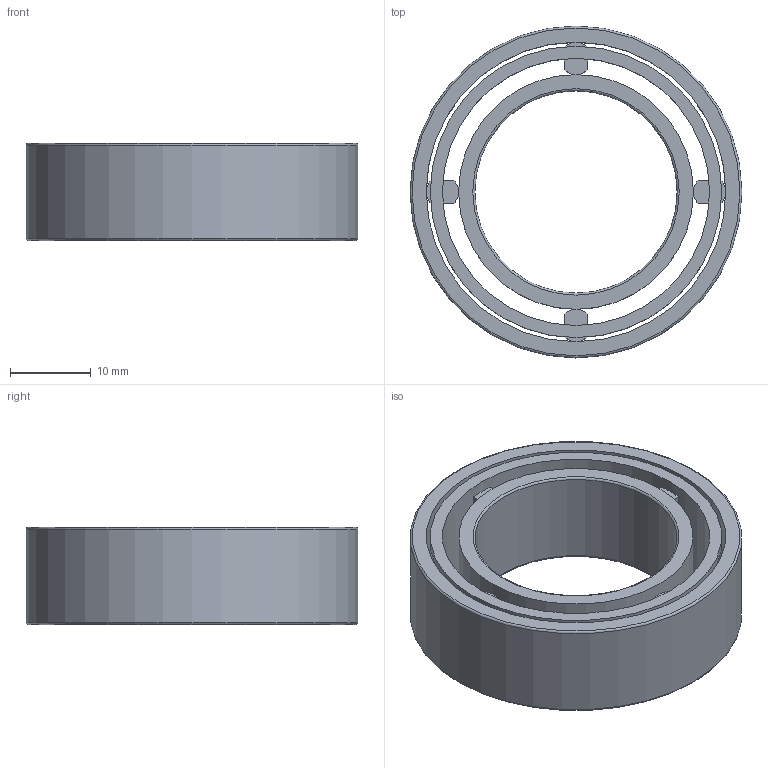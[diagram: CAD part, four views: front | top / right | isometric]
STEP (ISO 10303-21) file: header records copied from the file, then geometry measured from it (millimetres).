
FILE_DESCRIPTION(/* description */ (''),/* implementation_level */ '2;1');
FILE_NAME(/* name */ '300595 FR 437 M.stp',/* time_stamp */ '2016-11-03T15:54:16+01:00',/* author */ (''),/* organization */ (''),/* preprocessor_version */ 'ST-DEVELOPER v15',/* originating_system */ 'SIEMENS PLM Software NX 8.5',/* authorisation */ '');
FILE_SCHEMA (('CONFIG_CONTROL_DESIGN'));
Length unit declared in the file: millimetre
Products named in the file (2): ATE0000080_01; ATE0000084_01
Assembly tree (1 placements, depth 2):
  ATE0000084_01
    ATE0000080_01
Bounding box: 41 x 41 x 12 mm (x, y, z)
Volume: 6639.5 mm3; surface area: 8977.7 mm2
Topology: 3 solids, 3 shells, 60 faces, 134 edges, 88 vertices
Faces by surface type: plane 40, cylinder 16, torus 4
Full cylindrical faces by diameter (mm): 25 x1, 29 x1, 33 x1, 35 x1, 36 x2, 37 x1, 41 x1
Entity records: 1777 total; most frequent: DIRECTION 292, CARTESIAN_POINT 262, ORIENTED_EDGE 232, EDGE_CURVE 116, AXIS2_PLACEMENT_3D 114, EDGE_LOOP 88, VERTEX_POINT 84, LINE 64
